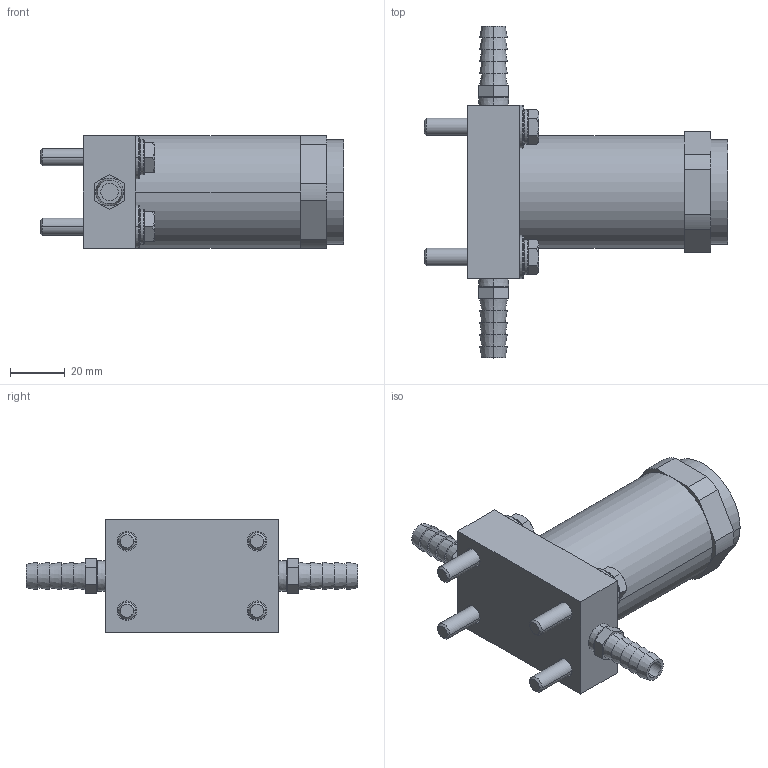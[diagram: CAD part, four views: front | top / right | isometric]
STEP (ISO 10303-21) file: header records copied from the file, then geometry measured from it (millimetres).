
FILE_DESCRIPTION((''),'2;1');
FILE_NAME('XA4_ASM','2017-08-24T',('jennifer.elliott'),('CenterLine (Windsor) Ltd - Automation Components Division'),'PRO/ENGINEER BY PARAMETRIC TECHNOLOGY CORPORATION, 2015030','PRO/ENGINEER BY PARAMETRIC TECHNOLOGY CORPORATION, 2015030','');
FILE_SCHEMA(('AUTOMOTIVE_DESIGN { 1 0 10303 214 1 1 1 1 }'));
Length unit declared in the file: inch
Products named in the file (17): PRT0869; PRT0870; PRT0871; PRT0872; PRT0873; PRT0874; PRT0875; PRT0876; PRT0877; PRT0878; TMP_DWG-3DSOLID_42_ASM; PRT0879; PRT0880; PRT0881; PRT0882; PRT0883; XA4_ASM
Assembly tree (16 placements, depth 3):
  XA4_ASM
    PRT0869
    PRT0870
    PRT0871
    PRT0872
    PRT0873
    PRT0874
    TMP_DWG-3DSOLID_42_ASM
      PRT0875
      PRT0876
      PRT0877
      PRT0878
    PRT0879
    PRT0880
    PRT0881
    PRT0882
    PRT0883
Bounding box: 111.12 x 121.41 x 41.27 mm (x, y, z)
Volume: 159203.8 mm3; surface area: 38474.7 mm2
Topology: 14 solids, 14 shells, 238 faces, 568 edges, 376 vertices
Faces by surface type: plane 104, cone 56, cylinder 54, torus 24
Entity records: 8355 total; most frequent: CARTESIAN_POINT 1714, DIRECTION 1298, ORIENTED_EDGE 1136, EDGE_CURVE 568, AXIS2_PLACEMENT_3D 543, VERTEX_POINT 376, EDGE_LOOP 276, CIRCLE 268
